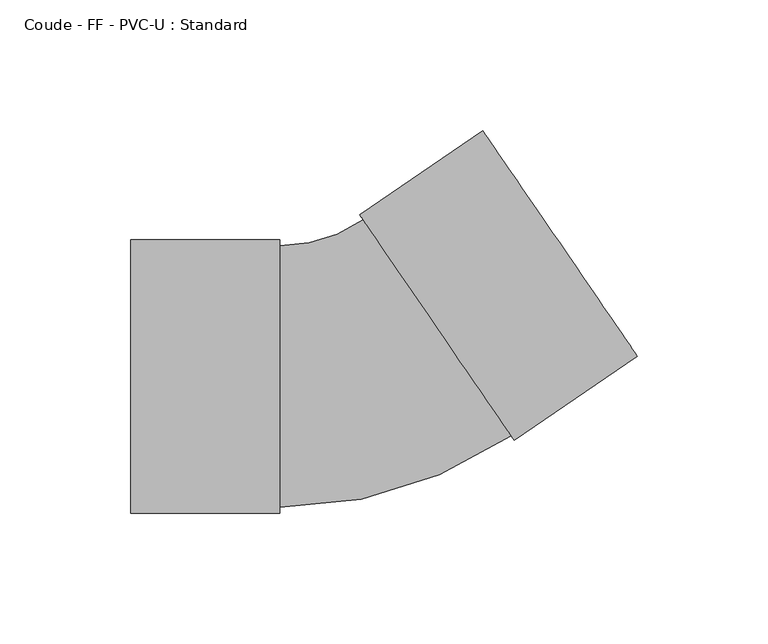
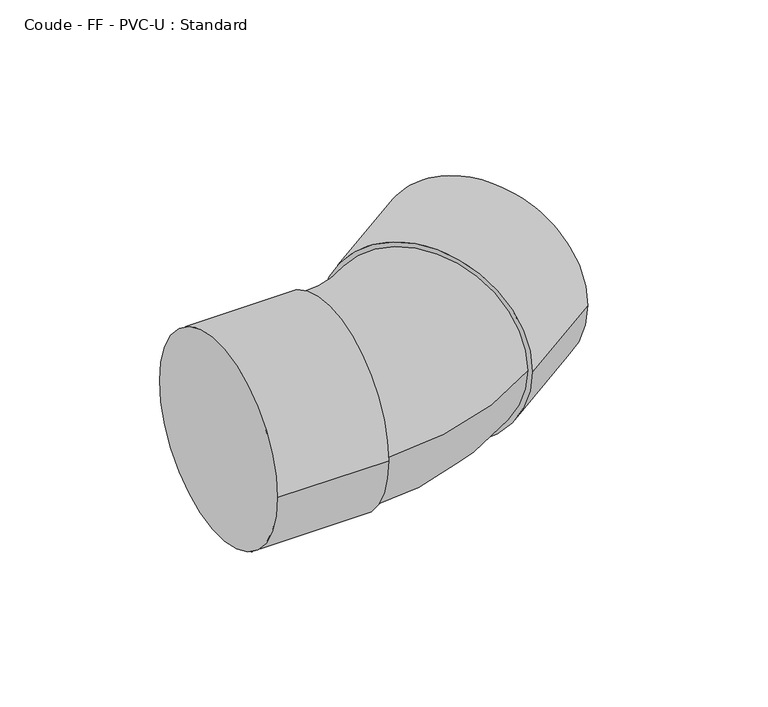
"""IFC4 building model written with IfcOpenShell, lengths in millimetres: pipe fitting geometry, Coude - FF - PVC-U : Standard."""

from ifc_helpers import new_model, si_unit, point, frame, origin, place, context, project, spatial, circle_curve, ellipse_curve, trimmed, source, transform, mapped, element, save
from ifc_brep_helpers import plane_surface, cylinder_surface, revolved_surface, advanced_brep


def coude_ff_pvc_u_standard_914ce397(model_context):
    return source(origin(), model_context, "Body", "AdvancedBrep", [
        advanced_brep(
        [(-90.0, -52.3, 0.0), (-90.0, 52.3, 0.0), (-33.0, -52.3, 0.0), (-33.0, 52.3, 0.0), (-33.0, -50.0, 0.0), (-33.0, 50.0, 0.0), (-1.0478957, 59.8990978, 0.0), (55.4877692, -22.585559, 0.0), (56.7880895, -24.4827061, 0.0), (-2.348216, 61.7962449, 0.0), (103.8043438, 7.7426229, 0.0), (44.6680383, 94.0215739, 0.0)],
        [
            (0, 1, circle_curve(frame((-90.0, 0.0, 0.0), z_axis=(-1.0, 0.0, 0.0), x_axis=(0.0, 1.0, 0.0)), 52.3)),
            (1, 0, circle_curve(frame((-90.0, 0.0, 0.0), z_axis=(-1.0, 0.0, 0.0), x_axis=(0.0, 1.0, 0.0)), 52.3)),
            (2, 3, circle_curve(frame((-33.0, 0.0, 0.0), z_axis=(1.0, 0.0, 0.0), x_axis=(0.0, 1.0, 0.0)), 52.3)),
            (3, 2, circle_curve(frame((-33.0, 0.0, 0.0), z_axis=(1.0, 0.0, 0.0), x_axis=(0.0, 1.0, 0.0)), 52.3)),
            (4, 5, circle_curve(frame((-33.0, 0.0, 0.0), z_axis=(-1.0, 0.0, 0.0), x_axis=(0.0, 1.0, 0.0)), 50.0)),
            (5, 4, circle_curve(frame((-33.0, 0.0, 0.0), z_axis=(-1.0, 0.0, 0.0), x_axis=(0.0, 1.0, 0.0)), 50.0)),
            (0, 2),
            (3, 1),
            (6, 5, circle_curve(frame((-33.0, 106.5167215, 0.0), z_axis=(0.0, 0.0, -1.0), x_axis=(0.0, -1.0, 0.0)), 56.5167215)),
            (4, 7, circle_curve(frame((-33.0, 106.5167215, 0.0), z_axis=(0.0, 0.0, 1.0), x_axis=(0.0, -1.0, 0.0)), 156.5167215)),
            (7, 6, circle_curve(frame((27.2199367, 18.6567694, 0.0), z_axis=(-0.8248465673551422, -0.565356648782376, 0.0), x_axis=(-0.565356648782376, 0.8248465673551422, 0.0)), 50.0)),
            (6, 7, circle_curve(frame((27.2199367, 18.6567694, 0.0), z_axis=(-0.8248465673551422, -0.565356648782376, 0.0), x_axis=(-0.565356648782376, 0.8248465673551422, 0.0)), 50.0)),
            (8, 9, circle_curve(frame((27.2199367, 18.6567694, 0.0), z_axis=(-0.8248465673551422, -0.5653566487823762, 0.0), x_axis=(-0.5653566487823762, 0.8248465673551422, 0.0)), 52.3)),
            (9, 8, circle_curve(frame((27.2199367, 18.6567694, 0.0), z_axis=(-0.8248465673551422, -0.5653566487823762, 0.0), x_axis=(-0.5653566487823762, 0.8248465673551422, 0.0)), 52.3)),
            (10, 11, circle_curve(frame((74.2361911, 50.8820984, 0.0), z_axis=(0.8248465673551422, 0.5653566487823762, 0.0), x_axis=(-0.5653566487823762, 0.8248465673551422, 0.0)), 52.3)),
            (11, 10, circle_curve(frame((74.2361911, 50.8820984, 0.0), z_axis=(0.8248465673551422, 0.5653566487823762, 0.0), x_axis=(-0.5653566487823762, 0.8248465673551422, 0.0)), 52.3)),
            (8, 10),
            (11, 9),
        ],
        [
            plane_surface(frame((-90.0, 0.0, 0.0), z_axis=(-1.0, 0.0, 0.0), x_axis=(0.0, 0.0, 1.0))),
            plane_surface(frame((-33.0, 0.0, 0.0), z_axis=(1.0, 0.0, 0.0), x_axis=(0.0, 0.0, 1.0))),
            cylinder_surface(frame((-90.0, 0.0, 0.0), z_axis=(-1.0, 0.0, 0.0), x_axis=(0.0, 1.0, 0.0)), 52.3),
            revolved_surface(trimmed(ellipse_curve(frame((-33.0, 0.0, 0.0), z_axis=(-1.0, 0.0, 0.0), x_axis=(0.0, 1.0, 0.0)), 50.0, 50.0), [point((-33.0, -50.0, 0.0))], [point((-33.0, 50.0, 0.0))], True, "CARTESIAN"), (-33.0, 106.5167215, 0.0), (0.0, 0.0, 1.0)),
            revolved_surface(trimmed(ellipse_curve(frame((-33.0, 0.0, 0.0), z_axis=(-1.0, 0.0, 0.0), x_axis=(0.0, 1.0, 0.0)), 50.0, 50.0), [point((-33.0, 50.0, 0.0))], [point((-33.0, -50.0, 0.0))], True, "CARTESIAN"), (-33.0, 106.5167215, 0.0), (0.0, 0.0, 1.0)),
            plane_surface(frame((27.2199367, 18.6567694, 0.0), z_axis=(-0.8248465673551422, -0.5653566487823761, 0.0), x_axis=(0.0, 0.0, 1.0))),
            plane_surface(frame((74.2361911, 50.8820984, 0.0), z_axis=(0.8248465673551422, 0.5653566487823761, 0.0), x_axis=(0.0, 0.0, 1.0))),
            cylinder_surface(frame((27.2199367, 18.6567694, 0.0), z_axis=(-0.8248465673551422, -0.5653566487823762, 0.0), x_axis=(-0.5653566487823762, 0.8248465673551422, 0.0)), 52.3),
        ],
        [
            (0, [[1, 2]]),
            (1, [[3, 4], [5, 6]]),
            (2, [[-1, 7, -4, 8]]),
            (2, [[-2, -8, -3, -7]]),
            (3, [[9, -5, 10, 11]]),
            (4, [[-9, 12, -10, -6]]),
            (5, [[13, 14], [-11, -12]]),
            (6, [[15, 16]]),
            (7, [[-13, 17, -16, 18]]),
            (7, [[-14, -18, -15, -17]]),
        ],
    ),
    ])


if __name__ == "__main__":
    model = new_model("IFC4")
    model_context = context("Model", 3, world=origin())
    ifc_project = project(units=[si_unit("LENGTHUNIT", "METRE", prefix="MILLI")], contexts=[model_context])
    site = spatial("IfcSite", under=ifc_project)
    building = spatial("IfcBuilding", under=site)
    placement = place(None, origin())
    coude_ff_pvc_u_standard_shape = coude_ff_pvc_u_standard_914ce397(model_context)
    element("IfcPipeFitting", 1, ObjectType="Coude - FF - PVC-U : Standard", at=placement, inside=building, context=model_context, shape_type="MappedRepresentation", body=[
        mapped(coude_ff_pvc_u_standard_shape, transform((0.0, 0.0, 0.0), x_axis=(1.0, 0.0, 0.0), y_axis=(0.0, 1.0, 0.0), z_axis=(0.0, 0.0, 1.0))),
    ])
    save(model, "model.ifc")
